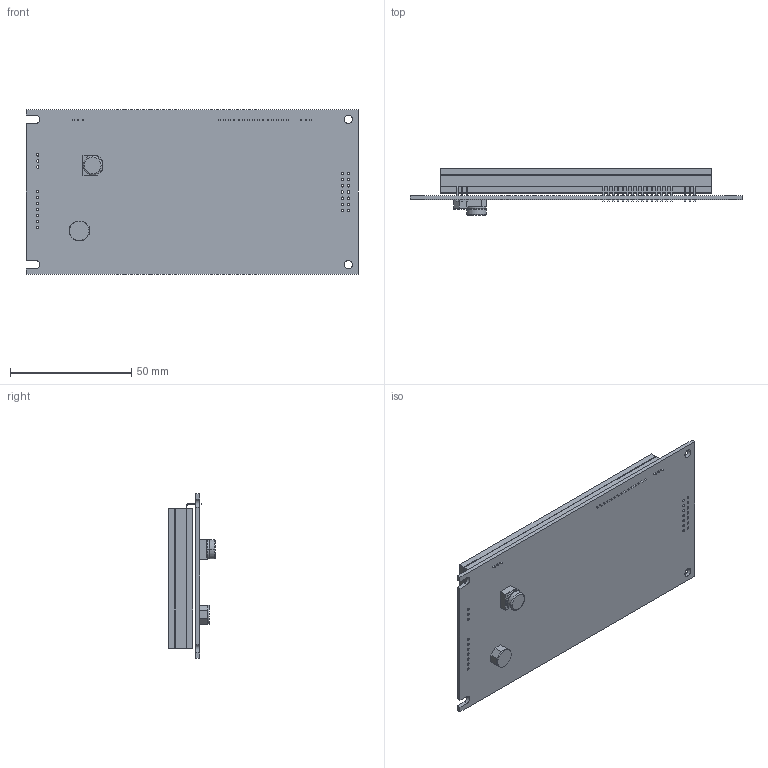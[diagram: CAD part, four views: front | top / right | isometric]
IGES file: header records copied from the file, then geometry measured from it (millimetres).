
Start section:  PTC IGES file: gu160x80e-7900b.igs
Global section: file name: gu160x80e-7900b.igs; native system: Pro/ENGINEER by Parametric Technology Corporation; preprocessor: 2010280; author: samx; organization: Unknown; date: 20140522.152711; units: millimetre
Bounding box: 137 x 19.2 x 68 mm (x, y, z)
Volume: 42412 mm3; surface area: 43407.7 mm2
Topology: 2 solids, 2 shells, 440 faces, 1346 edges, 876 vertices
Faces by surface type: bspline 324, revolution 116
